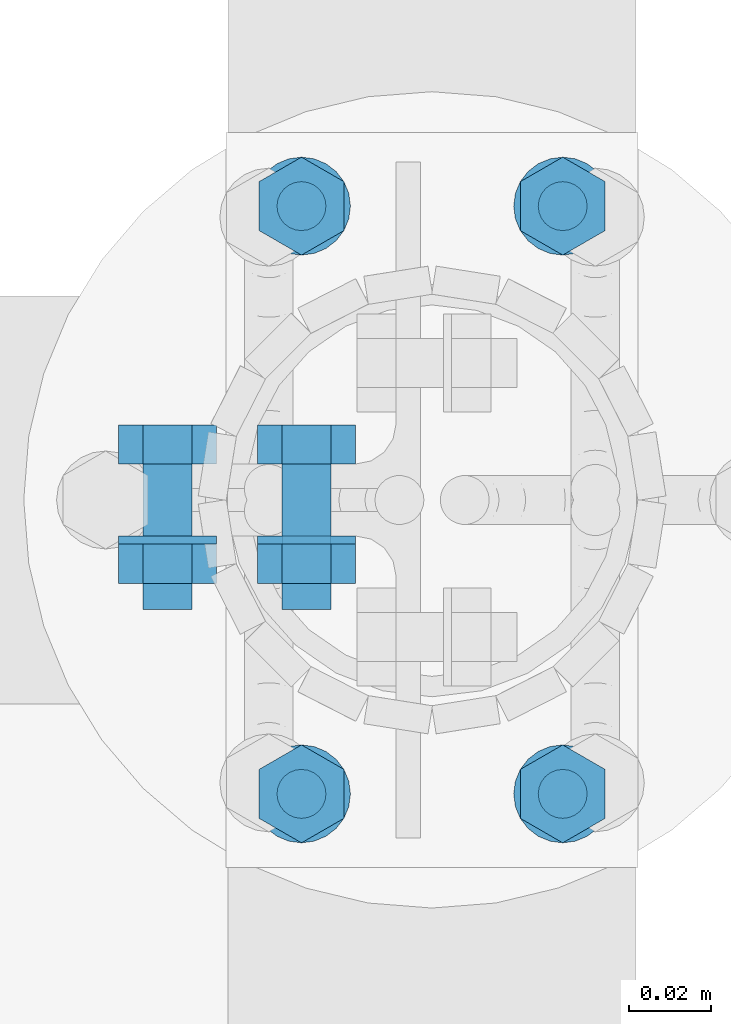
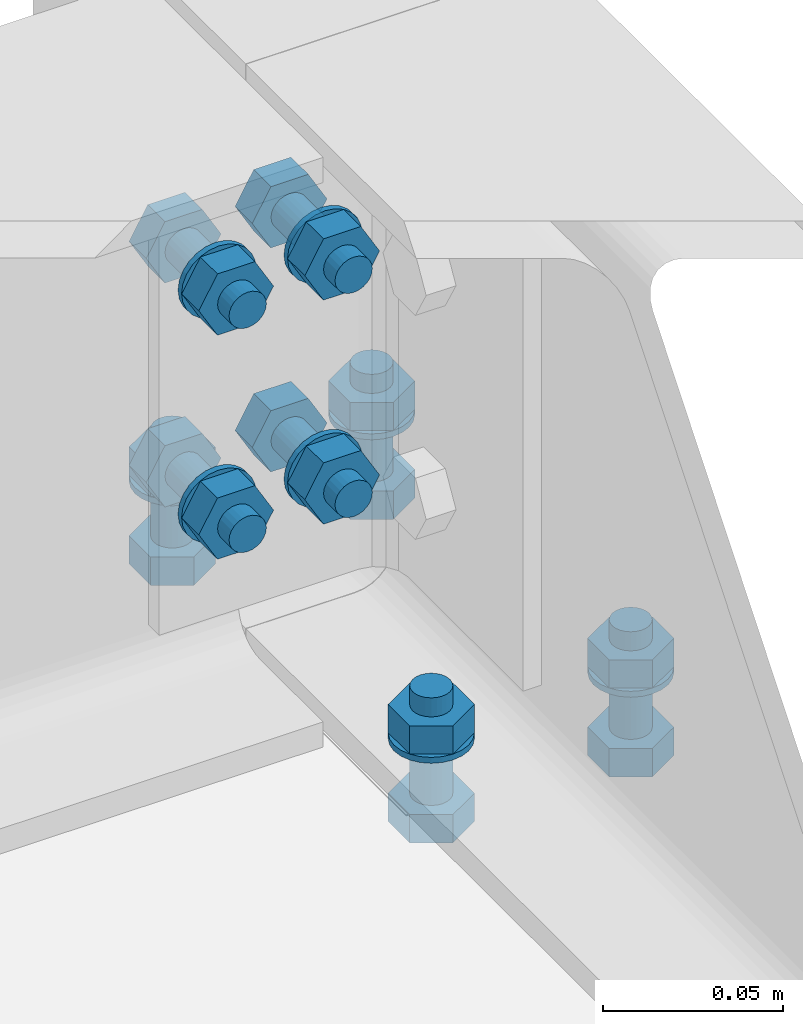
# One storey, part 70 of 84: 39 mechanical fasteners.
"""IFC4 building model written with IfcOpenShell, lengths in metres."""

import ifcopenshell
import ifcopenshell.guid

model = None  # the IFC model being written
_history = None  # IfcOwnerHistory: only IFC2X3 demands one
_inside = {}  # id of a spatial element -> (the spatial element, [elements in it])
_under = {}  # id of a project, library or spatial element -> (it, [spatial elements below it])
_declared = {}  # id of a project -> (the project, [libraries it declares])
_typed = {}  # id of a type object -> (the type object, [elements of that type])
_made_of = {}  # id of a material, layer set ... -> (it, [elements and type objects made of it])


def new_model(schema):
    """Start an empty IFC model of exactly this schema.

    Asked for "IFC4X3", IfcOpenShell would pick the latest addendum, in which some entities
    have other attributes; the version numbers below select the first issue.
    IFC2X3 requires an IfcOwnerHistory on every rooted entity: one is made here for all.
    """
    global model, _history
    if schema == "IFC4X3":
        model = ifcopenshell.file(schema_version=(4, 3, 0, 0))
    else:
        model = ifcopenshell.file(schema=schema)
    _inside.clear()
    _under.clear()
    _declared.clear()
    _typed.clear()
    _made_of.clear()
    _history = None
    if model.schema == "IFC2X3":
        org = make("IfcOrganization", Name="unknown")
        user = make(
            "IfcPersonAndOrganization",
            ThePerson=make("IfcPerson", FamilyName="unknown"),
            TheOrganization=org,
        )
        app = make(
            "IfcApplication",
            ApplicationDeveloper=org,
            Version="unknown",
            ApplicationFullName="unknown",
            ApplicationIdentifier="unknown",
        )
        _history = make(
            "IfcOwnerHistory",
            OwningUser=user,
            OwningApplication=app,
            ChangeAction="ADDED",
            CreationDate=0,
        )
    return model


def make(cls, **values):
    """One entity of the class cls with the attributes given. An attribute that is None is left unset."""
    return model.create_entity(
        cls, **{name: value for name, value in values.items() if value is not None}
    )


def rooted(cls, **values):
    """An entity with a GlobalId (a new one), such as an element, a storey or a relation."""
    return make(cls, GlobalId=ifcopenshell.guid.new(), OwnerHistory=_history, **values)


def si_unit(unit_type, name, prefix=None):
    """IfcSIUnit, for example si_unit("LENGTHUNIT", "METRE", prefix="MILLI")."""
    return make("IfcSIUnit", UnitType=unit_type, Prefix=prefix, Name=name)


def assignment(units):
    """IfcUnitAssignment: the units of a project."""
    return None if units is None else make("IfcUnitAssignment", Units=units)


def point(xyz):
    """IfcCartesianPoint."""
    return None if xyz is None else make("IfcCartesianPoint", Coordinates=xyz)


def direction(xyz):
    """IfcDirection."""
    return None if xyz is None else make("IfcDirection", DirectionRatios=xyz)


def frame(location, z_axis=None, x_axis=None):
    """IfcAxis2Placement3D, a coordinate frame: its origin and axes. An axis left out is left unset."""
    return make(
        "IfcAxis2Placement3D",
        Location=point(location),
        Axis=direction(z_axis),
        RefDirection=direction(x_axis),
    )


def origin_with_axes():
    """The frame at (0, 0, 0) with the z axis (0, 0, 1) and the x axis (1, 0, 0) written out."""
    return frame((0.0, 0.0, 0.0), z_axis=(0.0, 0.0, 1.0), x_axis=(1.0, 0.0, 0.0))


def place(relative_to, where):
    """IfcLocalPlacement: puts the frame where relative to a parent placement (None: the world)."""
    return make(
        "IfcLocalPlacement", PlacementRelTo=relative_to, RelativePlacement=where
    )


def context(
    kind, dimensions, precision=None, world=None, true_north=None, identifier=None
):
    """IfcGeometricRepresentationContext, for example the 3D "Model" context."""
    return make(
        "IfcGeometricRepresentationContext",
        ContextIdentifier=identifier,
        ContextType=kind,
        CoordinateSpaceDimension=dimensions,
        Precision=precision,
        WorldCoordinateSystem=world,
        TrueNorth=true_north,
    )


def project(units=None, contexts=None):
    """IfcProject with its units and contexts."""
    return rooted(
        "IfcProject",
        Name="project",
        RepresentationContexts=contexts,
        UnitsInContext=assignment(units),
    )


def spatial(cls, under=None, at=None, **own):
    """A site, building, storey or space (cls), placed at a placement, below another one or the project."""
    s = rooted(cls, ObjectPlacement=at, **own)
    if under is not None:
        _under.setdefault(under.id(), (under, []))[1].append(s)
    return s


def polyline(points):
    """IfcPolyline through the points."""
    return make("IfcPolyline", Points=[point(p) for p in points])


def outline(outer, holes=None, kind="AREA"):
    """IfcArbitraryClosedProfileDef: a profile drawn as a closed curve; with holes, ...WithVoids."""
    if holes is None:
        return make("IfcArbitraryClosedProfileDef", ProfileType=kind, OuterCurve=outer)
    return make(
        "IfcArbitraryProfileDefWithVoids",
        ProfileType=kind,
        OuterCurve=outer,
        InnerCurves=holes,
    )


def extrude(swept, where, along, depth):
    """IfcExtrudedAreaSolid: the profile swept, set in the frame where, extruded along a direction by depth."""
    return make(
        "IfcExtrudedAreaSolid",
        SweptArea=swept,
        Position=where,
        ExtrudedDirection=direction(along),
        Depth=depth,
    )


def shape(context_of_items, identifier, shape_type, items):
    """IfcShapeRepresentation: the items that make up one representation, for example the "Body"."""
    return make(
        "IfcShapeRepresentation",
        ContextOfItems=context_of_items,
        RepresentationIdentifier=identifier,
        RepresentationType=shape_type,
        Items=items,
    )


def made_of(thing, what):
    """Note that an element or type object is made of a material, layer set ...; save() writes the relation."""
    if what is not None:
        _made_of.setdefault(what.id(), (what, []))[1].append(thing)
    return thing


def type_object(cls, material=None, **own):
    """A type object (cls), such as IfcWallType, which elements share."""
    return made_of(rooted(cls, **own), material)


def element(
    cls,
    number,
    at=None,
    inside=None,
    cuts=None,
    type_object=None,
    material=None,
    context=None,
    identifier="Body",
    shape_type=None,
    held_by="IfcProductDefinitionShape",
    body=None,
    shapes=None,
    **own,
):
    """One element of the class cls, such as IfcWall. Its Tag is "e" and its number.

    at: its placement. inside: the storey or other place that contains it. cuts: it is an
    opening in that element (IfcRelVoidsElement). A single representation is given by context,
    identifier, shape_type and body (its items); several are given by shapes. held_by: the class
    of the entity that holds the representations. save() writes the other relations.
    """
    e = rooted(cls, Tag="e%d" % number, ObjectPlacement=at, **own)
    if body is not None:
        shapes = [shape(context, identifier, shape_type, body)]
    if shapes is not None:
        e.Representation = make(held_by, Representations=shapes)
    if inside is not None:
        _inside.setdefault(inside.id(), (inside, []))[1].append(e)
    if cuts is not None:
        rooted(
            "IfcRelVoidsElement", RelatingBuildingElement=cuts, RelatedOpeningElement=e
        )
    if type_object is not None:
        _typed.setdefault(type_object.id(), (type_object, []))[1].append(e)
    return made_of(e, material)


def aggregate(whole, parts):
    """IfcRelAggregates: a whole, such as a stair, and the parts it consists of."""
    return rooted("IfcRelAggregates", RelatingObject=whole, RelatedObjects=parts)


def save(model, path):
    """Write the relations noted so far, then the file.

    IfcRelAggregates (storeys below a building ...), IfcRelContainedInSpatialStructure (elements
    in a storey), IfcRelDefinesByType, IfcRelAssociatesMaterial and IfcRelDeclares: one each for
    every whole, place, type object, material and project.
    """
    for whole, parts in _under.values():
        aggregate(whole, parts)
    for where, things in _inside.values():
        rooted(
            "IfcRelContainedInSpatialStructure",
            RelatedElements=things,
            RelatingStructure=where,
        )
    for kind, things in _typed.values():
        rooted("IfcRelDefinesByType", RelatedObjects=things, RelatingType=kind)
    for what, things in _made_of.values():
        rooted("IfcRelAssociatesMaterial", RelatedObjects=things, RelatingMaterial=what)
    for by, libraries in _declared.values():
        rooted("IfcRelDeclares", RelatingContext=by, RelatedDefinitions=libraries)
    model.write(path)


model = new_model("IFC4")

# Units and contexts
model_context = context("Model", 3, precision=1e-05, world=origin_with_axes())
ifc_project = project(units=[si_unit("LENGTHUNIT", "METRE"), si_unit("AREAUNIT", "SQUARE_METRE"), si_unit("VOLUMEUNIT", "CUBIC_METRE"), si_unit("MASSUNIT", "GRAM", prefix="KILO"), si_unit("TIMEUNIT", "SECOND"), si_unit("PLANEANGLEUNIT", "RADIAN"), si_unit("SOLIDANGLEUNIT", "STERADIAN"), si_unit("THERMODYNAMICTEMPERATUREUNIT", "DEGREE_CELSIUS")], contexts=[model_context])

# Site, building, storey
placement_1 = place(None, origin_with_axes())
site = spatial("IfcSite", under=ifc_project, at=placement_1, Name="Italia", CompositionType="ELEMENT")
building = spatial("IfcBuilding", under=site, at=placement_1, Name="Tettoia", CompositionType="ELEMENT")
storey_placement = place(None, frame((0.0, 0.0, 4.199999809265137), z_axis=(0.0, 0.0, 1.0), x_axis=(1.0, 0.0, 0.0)))
storey = spatial("IfcBuildingStorey", under=building, at=storey_placement, Name="Storey 1", CompositionType="ELEMENT", Elevation=4.199999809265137)

# Mechanical fasteners
mechanical_fastener_type_1 = type_object("IfcMechanicalFastenerType", Name="Collegamento 0113_-013", PredefinedType="BOLT")
placement_2 = place(placement_1, origin_with_axes())
mechanical_fastener_1_placement = place(placement_2, origin_with_axes())
element("IfcMechanicalFastener", 1, at=mechanical_fastener_1_placement, inside=storey, type_object=mechanical_fastener_type_1, Name="Collegamento 0113_-013", NominalDiameter=0.0119997, context=model_context, shape_type="SweptSolid", body=[
    extrude(outline(polyline([(0.0, 0.0), (0.0120001, 0.0), (0.0179996, -0.0103931), (0.0120001, -0.0207853), (0.0, -0.0207853), (-0.00599957, -0.0103931), (0.0, 0.0)])), frame((11.3324, 14.016, 4.19), z_axis=(0.0, 0.0, -1.0), x_axis=(0.0, 1.0, 0.0)), (0.0, 0.0, 1.0), 0.00959969),
])
mechanical_fastener_type_2 = type_object("IfcMechanicalFastenerType", Name="Collegamento 0113_-013", PredefinedType="BOLT")
mechanical_fastener_2_placement = place(placement_2, origin_with_axes())
element("IfcMechanicalFastener", 2, at=mechanical_fastener_2_placement, inside=storey, type_object=mechanical_fastener_type_2, Name="Collegamento 0113_-013", NominalDiameter=0.012, context=model_context, shape_type="SweptSolid", body=[
    extrude(outline(polyline([(0.0, 0.0), (-0.000204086, -0.00155258), (-0.000802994, -0.00300026), (-0.00175667, -0.0042429), (-0.00299931, -0.00519657), (-0.00444698, -0.00579548), (-0.00599957, -0.00599957), (-0.00755215, -0.00579548), (-0.00899982, -0.00519657), (-0.0102425, -0.0042429), (-0.0111961, -0.00300026), (-0.011795, -0.00155258), (-0.0119991, 0.0), (-0.011795, 0.00155258), (-0.0111961, 0.00300026), (-0.0102425, 0.0042429), (-0.00899982, 0.00519657), (-0.00755215, 0.00579548), (-0.00599957, 0.00599957), (-0.00444698, 0.00579548), (-0.00299931, 0.00519657), (-0.00175667, 0.0042429), (-0.000802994, 0.00300026), (-0.000204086, 0.00155258), (0.0, 0.0)])), frame((11.322, 14.028, 4.2265), z_axis=(0.0, 0.0, -1.0), x_axis=(0.0, 1.0, 0.0)), (0.0, 0.0, 1.0), 0.0365005),
])
mechanical_fastener_type_3 = type_object("IfcMechanicalFastenerType", Name="Collegamento 0113_-013", PredefinedType="BOLT")
mechanical_fastener_3_placement = place(placement_2, origin_with_axes())
element("IfcMechanicalFastener", 3, at=mechanical_fastener_3_placement, inside=storey, type_object=mechanical_fastener_type_3, Name="Collegamento 0113_-013", NominalDiameter=0.0119997, context=model_context, shape_type="SweptSolid", body=[
    extrude(outline(polyline([(0.0, 0.0), (0.0120001, 0.0), (0.0179996, -0.0103931), (0.0120001, -0.0207853), (0.0, -0.0207853), (-0.00599957, -0.0103931), (0.0, 0.0)])), frame((11.3324, 14.016, 4.2201), z_axis=(0.0, 0.0, -1.0), x_axis=(0.0, 1.0, 0.0)), (0.0, 0.0, 1.0), 0.00960016),
])
mechanical_fastener_type_4 = type_object("IfcMechanicalFastenerType", Name="Collegamento 0113_-013", PredefinedType="BOLT")
mechanical_fastener_4_placement = place(placement_2, origin_with_axes())
element("IfcMechanicalFastener", 4, at=mechanical_fastener_4_placement, inside=storey, type_object=mechanical_fastener_type_4, Name="Collegamento 0113_-013", NominalDiameter=0.024, context=model_context, shape_type="SweptSolid", body=[
    extrude(outline(polyline([(0.0, 0.0), (-0.000409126, -0.00310612), (-0.00160789, -0.00599957), (-0.00351524, -0.00848484), (-0.00600052, -0.0103922), (-0.00889397, -0.011591), (-0.0120001, -0.0120001), (-0.0151062, -0.011591), (-0.0179996, -0.0103922), (-0.0204849, -0.00848484), (-0.0223923, -0.00599957), (-0.023591, -0.00310612), (-0.0240002, 0.0), (-0.023591, 0.00310612), (-0.0223923, 0.00599957), (-0.0204849, 0.00848484), (-0.0179996, 0.0103922), (-0.0151062, 0.011591), (-0.0120001, 0.0120001), (-0.00889397, 0.011591), (-0.00600052, 0.0103922), (-0.00351524, 0.00848484), (-0.00160789, 0.00599957), (-0.000409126, 0.00310612), (0.0, 0.0)])), frame((11.322, 14.034, 4.2105), z_axis=(0.0, 0.0, -1.0), x_axis=(0.0, 1.0, 0.0)), (0.0, 0.0, 1.0), 0.00199986),
])
mechanical_fastener_type_5 = type_object("IfcMechanicalFastenerType", Name="Collegamento 0113_-013", PredefinedType="BOLT")
mechanical_fastener_5_placement = place(placement_2, origin_with_axes())
element("IfcMechanicalFastener", 5, at=mechanical_fastener_5_placement, inside=storey, type_object=mechanical_fastener_type_5, Name="Collegamento 0113_-013", NominalDiameter=0.0119997, context=model_context, shape_type="SweptSolid", body=[
    extrude(outline(polyline([(0.0, 0.0), (0.0120001, 0.0), (0.0179996, -0.0103931), (0.0120001, -0.0207853), (0.0, -0.0207853), (-0.00599957, -0.0103931), (0.0, 0.0)])), frame((11.3324, 13.872, 4.19), z_axis=(0.0, 0.0, -1.0), x_axis=(0.0, 1.0, 0.0)), (0.0, 0.0, 1.0), 0.00959969),
])
mechanical_fastener_type_6 = type_object("IfcMechanicalFastenerType", Name="Collegamento 0113_-013", PredefinedType="BOLT")
mechanical_fastener_6_placement = place(placement_2, origin_with_axes())
element("IfcMechanicalFastener", 6, at=mechanical_fastener_6_placement, inside=storey, type_object=mechanical_fastener_type_6, Name="Collegamento 0113_-013", NominalDiameter=0.012, context=model_context, shape_type="SweptSolid", body=[
    extrude(outline(polyline([(0.0, 0.0), (-0.000204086, -0.00155258), (-0.000802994, -0.00300026), (-0.00175667, -0.0042429), (-0.00299931, -0.00519657), (-0.00444698, -0.00579548), (-0.00599957, -0.00599957), (-0.00755215, -0.00579548), (-0.00899982, -0.00519657), (-0.0102425, -0.0042429), (-0.0111961, -0.00300026), (-0.011795, -0.00155258), (-0.0119991, 0.0), (-0.011795, 0.00155258), (-0.0111961, 0.00300026), (-0.0102425, 0.0042429), (-0.00899982, 0.00519657), (-0.00755215, 0.00579548), (-0.00599957, 0.00599957), (-0.00444698, 0.00579548), (-0.00299931, 0.00519657), (-0.00175667, 0.0042429), (-0.000802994, 0.00300026), (-0.000204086, 0.00155258), (0.0, 0.0)])), frame((11.322, 13.884, 4.2265), z_axis=(0.0, 0.0, -1.0), x_axis=(0.0, 1.0, 0.0)), (0.0, 0.0, 1.0), 0.0365005),
])
mechanical_fastener_type_7 = type_object("IfcMechanicalFastenerType", Name="Collegamento 0113_-013", PredefinedType="BOLT")
mechanical_fastener_7_placement = place(placement_2, origin_with_axes())
element("IfcMechanicalFastener", 7, at=mechanical_fastener_7_placement, inside=storey, type_object=mechanical_fastener_type_7, Name="Collegamento 0113_-013", NominalDiameter=0.0119997, context=model_context, shape_type="SweptSolid", body=[
    extrude(outline(polyline([(0.0, 0.0), (0.0120001, 0.0), (0.0179996, -0.0103931), (0.0120001, -0.0207853), (0.0, -0.0207853), (-0.00599957, -0.0103931), (0.0, 0.0)])), frame((11.3324, 13.872, 4.2201), z_axis=(0.0, 0.0, -1.0), x_axis=(0.0, 1.0, 0.0)), (0.0, 0.0, 1.0), 0.00960016),
])
mechanical_fastener_type_8 = type_object("IfcMechanicalFastenerType", Name="Collegamento 0113_-013", PredefinedType="BOLT")
mechanical_fastener_8_placement = place(placement_2, origin_with_axes())
element("IfcMechanicalFastener", 8, at=mechanical_fastener_8_placement, inside=storey, type_object=mechanical_fastener_type_8, Name="Collegamento 0113_-013", NominalDiameter=0.024, context=model_context, shape_type="SweptSolid", body=[
    extrude(outline(polyline([(0.0, 0.0), (-0.000409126, -0.00310612), (-0.00160789, -0.00599957), (-0.00351524, -0.00848484), (-0.00600052, -0.0103922), (-0.00889397, -0.011591), (-0.0120001, -0.0120001), (-0.0151062, -0.011591), (-0.0179996, -0.0103922), (-0.0204849, -0.00848484), (-0.0223923, -0.00599957), (-0.023591, -0.00310612), (-0.0240002, 0.0), (-0.023591, 0.00310612), (-0.0223923, 0.00599957), (-0.0204849, 0.00848484), (-0.0179996, 0.0103922), (-0.0151062, 0.011591), (-0.0120001, 0.0120001), (-0.00889397, 0.011591), (-0.00600052, 0.0103922), (-0.00351524, 0.00848484), (-0.00160789, 0.00599957), (-0.000409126, 0.00310612), (0.0, 0.0)])), frame((11.322, 13.89, 4.2105), z_axis=(0.0, 0.0, -1.0), x_axis=(0.0, 1.0, 0.0)), (0.0, 0.0, 1.0), 0.00199986),
])
mechanical_fastener_type_9 = type_object("IfcMechanicalFastenerType", Name="Collegamento 0113_-013", PredefinedType="BOLT")
mechanical_fastener_9_placement = place(placement_2, origin_with_axes())
element("IfcMechanicalFastener", 9, at=mechanical_fastener_9_placement, inside=storey, type_object=mechanical_fastener_type_9, Name="Collegamento 0113_-013", NominalDiameter=0.0119997, context=model_context, shape_type="SweptSolid", body=[
    extrude(outline(polyline([(0.0, 0.0), (0.0120001, 0.0), (0.0179996, -0.0103922), (0.0120001, -0.0207853), (0.0, -0.0207853), (-0.00599957, -0.0103922), (0.0, 0.0)])), frame((11.2684, 14.016, 4.19), z_axis=(0.0, 0.0, -1.0), x_axis=(0.0, 1.0, 0.0)), (0.0, 0.0, 1.0), 0.00959969),
])
mechanical_fastener_type_10 = type_object("IfcMechanicalFastenerType", Name="Collegamento 0113_-013", PredefinedType="BOLT")
mechanical_fastener_10_placement = place(placement_2, origin_with_axes())
element("IfcMechanicalFastener", 10, at=mechanical_fastener_10_placement, inside=storey, type_object=mechanical_fastener_type_10, Name="Collegamento 0113_-013", NominalDiameter=0.012, context=model_context, shape_type="SweptSolid", body=[
    extrude(outline(polyline([(0.0, 0.0), (-0.000204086, -0.00155258), (-0.000802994, -0.00300026), (-0.00175667, -0.0042429), (-0.00299931, -0.00519657), (-0.00444698, -0.00579548), (-0.00599957, -0.00599957), (-0.00755215, -0.00579548), (-0.00899982, -0.00519657), (-0.0102425, -0.0042429), (-0.0111961, -0.00300026), (-0.011795, -0.00155258), (-0.0119991, 0.0), (-0.011795, 0.00155258), (-0.0111961, 0.00300026), (-0.0102425, 0.0042429), (-0.00899982, 0.00519657), (-0.00755215, 0.00579548), (-0.00599957, 0.00599957), (-0.00444698, 0.00579548), (-0.00299931, 0.00519657), (-0.00175667, 0.0042429), (-0.000802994, 0.00300026), (-0.000204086, 0.00155258), (0.0, 0.0)])), frame((11.258, 14.028, 4.2265), z_axis=(0.0, 0.0, -1.0), x_axis=(0.0, 1.0, 0.0)), (0.0, 0.0, 1.0), 0.0365005),
])
mechanical_fastener_type_11 = type_object("IfcMechanicalFastenerType", Name="Collegamento 0113_-013", PredefinedType="BOLT")
mechanical_fastener_11_placement = place(placement_2, origin_with_axes())
element("IfcMechanicalFastener", 11, at=mechanical_fastener_11_placement, inside=storey, type_object=mechanical_fastener_type_11, Name="Collegamento 0113_-013", NominalDiameter=0.0119997, context=model_context, shape_type="SweptSolid", body=[
    extrude(outline(polyline([(0.0, 0.0), (0.0120001, 0.0), (0.0179996, -0.0103922), (0.0120001, -0.0207853), (0.0, -0.0207853), (-0.00599957, -0.0103922), (0.0, 0.0)])), frame((11.2684, 14.016, 4.2201), z_axis=(0.0, 0.0, -1.0), x_axis=(0.0, 1.0, 0.0)), (0.0, 0.0, 1.0), 0.00960016),
])
mechanical_fastener_type_12 = type_object("IfcMechanicalFastenerType", Name="Collegamento 0113_-013", PredefinedType="BOLT")
mechanical_fastener_12_placement = place(placement_2, origin_with_axes())
element("IfcMechanicalFastener", 12, at=mechanical_fastener_12_placement, inside=storey, type_object=mechanical_fastener_type_12, Name="Collegamento 0113_-013", NominalDiameter=0.024, context=model_context, shape_type="SweptSolid", body=[
    extrude(outline(polyline([(0.0, 0.0), (-0.000409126, -0.00310612), (-0.00160789, -0.00599957), (-0.00351524, -0.00848484), (-0.00600052, -0.0103922), (-0.00889397, -0.011591), (-0.0120001, -0.0120001), (-0.0151062, -0.011591), (-0.0179996, -0.0103922), (-0.0204849, -0.00848484), (-0.0223923, -0.00599957), (-0.023591, -0.00310612), (-0.0240002, 0.0), (-0.023591, 0.00310612), (-0.0223923, 0.00599957), (-0.0204849, 0.00848484), (-0.0179996, 0.0103922), (-0.0151062, 0.011591), (-0.0120001, 0.0120001), (-0.00889397, 0.011591), (-0.00600052, 0.0103922), (-0.00351524, 0.00848484), (-0.00160789, 0.00599957), (-0.000409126, 0.00310612), (0.0, 0.0)])), frame((11.258, 14.034, 4.2105), z_axis=(0.0, 0.0, -1.0), x_axis=(0.0, 1.0, 0.0)), (0.0, 0.0, 1.0), 0.00199986),
])
mechanical_fastener_type_13 = type_object("IfcMechanicalFastenerType", Name="Collegamento 0113_-013", PredefinedType="BOLT")
mechanical_fastener_13_placement = place(placement_2, origin_with_axes())
element("IfcMechanicalFastener", 13, at=mechanical_fastener_13_placement, inside=storey, type_object=mechanical_fastener_type_13, Name="Collegamento 0113_-013", NominalDiameter=0.0119997, context=model_context, shape_type="SweptSolid", body=[
    extrude(outline(polyline([(0.0, 0.0), (0.0120001, 0.0), (0.0179996, -0.0103922), (0.0120001, -0.0207853), (0.0, -0.0207853), (-0.00599957, -0.0103922), (0.0, 0.0)])), frame((11.2684, 13.872, 4.19), z_axis=(0.0, 0.0, -1.0), x_axis=(0.0, 1.0, 0.0)), (0.0, 0.0, 1.0), 0.00959969),
])
mechanical_fastener_type_14 = type_object("IfcMechanicalFastenerType", Name="Collegamento 0113_-013", PredefinedType="BOLT")
mechanical_fastener_14_placement = place(placement_2, origin_with_axes())
element("IfcMechanicalFastener", 14, at=mechanical_fastener_14_placement, inside=storey, type_object=mechanical_fastener_type_14, Name="Collegamento 0113_-013", NominalDiameter=0.012, context=model_context, shape_type="SweptSolid", body=[
    extrude(outline(polyline([(0.0, 0.0), (-0.000204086, -0.00155258), (-0.000802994, -0.00300026), (-0.00175667, -0.0042429), (-0.00299931, -0.00519657), (-0.00444698, -0.00579548), (-0.00599957, -0.00599957), (-0.00755215, -0.00579548), (-0.00899982, -0.00519657), (-0.0102425, -0.0042429), (-0.0111961, -0.00300026), (-0.011795, -0.00155258), (-0.0119991, 0.0), (-0.011795, 0.00155258), (-0.0111961, 0.00300026), (-0.0102425, 0.0042429), (-0.00899982, 0.00519657), (-0.00755215, 0.00579548), (-0.00599957, 0.00599957), (-0.00444698, 0.00579548), (-0.00299931, 0.00519657), (-0.00175667, 0.0042429), (-0.000802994, 0.00300026), (-0.000204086, 0.00155258), (0.0, 0.0)])), frame((11.258, 13.884, 4.2265), z_axis=(0.0, 0.0, -1.0), x_axis=(0.0, 1.0, 0.0)), (0.0, 0.0, 1.0), 0.0365005),
])
mechanical_fastener_type_15 = type_object("IfcMechanicalFastenerType", Name="Collegamento 0113_-013", PredefinedType="BOLT")
mechanical_fastener_15_placement = place(placement_2, origin_with_axes())
element("IfcMechanicalFastener", 15, at=mechanical_fastener_15_placement, inside=storey, type_object=mechanical_fastener_type_15, Name="Collegamento 0113_-013", NominalDiameter=0.0119997, context=model_context, shape_type="SweptSolid", body=[
    extrude(outline(polyline([(0.0, 0.0), (0.0120001, 0.0), (0.0179996, -0.0103922), (0.0120001, -0.0207853), (0.0, -0.0207853), (-0.00599957, -0.0103922), (0.0, 0.0)])), frame((11.2684, 13.872, 4.2201), z_axis=(0.0, 0.0, -1.0), x_axis=(0.0, 1.0, 0.0)), (0.0, 0.0, 1.0), 0.00960016),
])
mechanical_fastener_type_16 = type_object("IfcMechanicalFastenerType", Name="Collegamento 0113_-013", PredefinedType="BOLT")
mechanical_fastener_16_placement = place(placement_2, origin_with_axes())
element("IfcMechanicalFastener", 16, at=mechanical_fastener_16_placement, inside=storey, type_object=mechanical_fastener_type_16, Name="Collegamento 0113_-013", NominalDiameter=0.024, context=model_context, shape_type="SweptSolid", body=[
    extrude(outline(polyline([(0.0, 0.0), (-0.000409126, -0.00310612), (-0.00160789, -0.00599957), (-0.00351524, -0.00848484), (-0.00600052, -0.0103922), (-0.00889397, -0.011591), (-0.0120001, -0.0120001), (-0.0151062, -0.011591), (-0.0179996, -0.0103922), (-0.0204849, -0.00848484), (-0.0223923, -0.00599957), (-0.023591, -0.00310612), (-0.0240002, 0.0), (-0.023591, 0.00310612), (-0.0223923, 0.00599957), (-0.0204849, 0.00848484), (-0.0179996, 0.0103922), (-0.0151062, 0.011591), (-0.0120001, 0.0120001), (-0.00889397, 0.011591), (-0.00600052, 0.0103922), (-0.00351524, 0.00848484), (-0.00160789, 0.00599957), (-0.000409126, 0.00310612), (0.0, 0.0)])), frame((11.258, 13.89, 4.2105), z_axis=(0.0, 0.0, -1.0), x_axis=(0.0, 1.0, 0.0)), (0.0, 0.0, 1.0), 0.00199986),
])
mechanical_fastener_type_17 = type_object("IfcMechanicalFastenerType", Name="Collegamento 0113_-016", PredefinedType="BOLT")
mechanical_fastener_17_placement = place(placement_2, origin_with_axes())
element("IfcMechanicalFastener", 17, at=mechanical_fastener_17_placement, inside=storey, type_object=mechanical_fastener_type_17, Name="Collegamento 0113_-016", NominalDiameter=0.0119997, context=model_context, shape_type="SweptSolid", body=[
    extrude(outline(polyline([(0.0, 0.0), (-0.0120001, 0.0), (-0.0180006, 0.0103922), (-0.0120001, 0.0207844), (0.0, 0.0207844), (0.00599957, 0.0103922), (0.0, 0.0)])), frame((11.2532, 13.9588, 4.25161), z_axis=(0.0, 1.0, 0.0), x_axis=(-1.0, 0.0, 0.0)), (0.0, 0.0, 1.0), 0.00960064),
])
mechanical_fastener_type_18 = type_object("IfcMechanicalFastenerType", Name="Collegamento 0113_-016", PredefinedType="BOLT")
mechanical_fastener_18_placement = place(placement_2, origin_with_axes())
element("IfcMechanicalFastener", 18, at=mechanical_fastener_18_placement, inside=storey, type_object=mechanical_fastener_type_18, Name="Collegamento 0113_-016", NominalDiameter=0.012, context=model_context, shape_type="SweptSolid", body=[
    extrude(outline(polyline([(0.0, 0.0), (-0.000204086, -0.00155306), (-0.000802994, -0.00299978), (-0.00175667, -0.00424242), (-0.00299931, -0.00519609), (-0.00444698, -0.00579548), (-0.00599957, -0.00600004), (-0.00755215, -0.00579548), (-0.00899982, -0.00519609), (-0.0102425, -0.00424242), (-0.0111961, -0.00299978), (-0.011795, -0.00155306), (-0.0119991, 0.0), (-0.011795, 0.00155306), (-0.0111961, 0.00299978), (-0.0102425, 0.00424242), (-0.00899982, 0.00519609), (-0.00755215, 0.00579548), (-0.00599957, 0.00600004), (-0.00444698, 0.00579548), (-0.00299931, 0.00519609), (-0.00175667, 0.00424242), (-0.000802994, 0.00299978), (-0.000204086, 0.00155306), (0.0, 0.0)])), frame((11.2532, 13.9232, 4.262), z_axis=(0.0, 1.0, 0.0), x_axis=(-1.0, 0.0, 0.0)), (0.0, 0.0, 1.0), 0.0355997),
])
mechanical_fastener_type_19 = type_object("IfcMechanicalFastenerType", Name="Collegamento 0113_-016", PredefinedType="BOLT")
mechanical_fastener_19_placement = place(placement_2, origin_with_axes())
element("IfcMechanicalFastener", 19, at=mechanical_fastener_19_placement, inside=storey, type_object=mechanical_fastener_type_19, Name="Collegamento 0113_-016", NominalDiameter=0.0119997, context=model_context, shape_type="SweptSolid", body=[
    extrude(outline(polyline([(0.0, 0.0), (-0.0120001, 0.0), (-0.0180006, 0.0103922), (-0.0120001, 0.0207844), (0.0, 0.0207844), (0.00599957, 0.0103922), (0.0, 0.0)])), frame((11.2532, 13.9296, 4.25161), z_axis=(0.0, 1.0, 0.0), x_axis=(-1.0, 0.0, 0.0)), (0.0, 0.0, 1.0), 0.00959969),
])
mechanical_fastener_type_20 = type_object("IfcMechanicalFastenerType", Name="Collegamento 0113_-016", PredefinedType="BOLT")
mechanical_fastener_20_placement = place(placement_2, origin_with_axes())
element("IfcMechanicalFastener", 20, at=mechanical_fastener_20_placement, inside=storey, type_object=mechanical_fastener_type_20, Name="Collegamento 0113_-016", NominalDiameter=0.024, context=model_context, shape_type="SweptSolid", body=[
    extrude(outline(polyline([(0.0, 0.0), (-0.000409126, -0.00310564), (-0.00160789, -0.00600004), (-0.00351524, -0.00848532), (-0.00600052, -0.0103922), (-0.00889397, -0.011591), (-0.0120001, -0.0120001), (-0.0151062, -0.011591), (-0.0179996, -0.0103922), (-0.0204849, -0.00848532), (-0.0223923, -0.00600004), (-0.023591, -0.00310564), (-0.0240002, 0.0), (-0.023591, 0.00310564), (-0.0223923, 0.00600004), (-0.0204849, 0.00848532), (-0.0179996, 0.0103922), (-0.0151062, 0.011591), (-0.0120001, 0.0120001), (-0.00889397, 0.011591), (-0.00600052, 0.0103922), (-0.00351524, 0.00848532), (-0.00160789, 0.00600004), (-0.000409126, 0.00310564), (0.0, 0.0)])), frame((11.2472, 13.9392, 4.262), z_axis=(0.0, 1.0, 0.0), x_axis=(-1.0, 0.0, 0.0)), (0.0, 0.0, 1.0), 0.00200081),
])
mechanical_fastener_type_21 = type_object("IfcMechanicalFastenerType", Name="Collegamento 0113_-016", PredefinedType="BOLT")
mechanical_fastener_21_placement = place(placement_2, origin_with_axes())
element("IfcMechanicalFastener", 21, at=mechanical_fastener_21_placement, inside=storey, type_object=mechanical_fastener_type_21, Name="Collegamento 0113_-016", NominalDiameter=0.0119997, context=model_context, shape_type="SweptSolid", body=[
    extrude(outline(polyline([(0.0, 0.0), (-0.0120001, 0.0), (-0.0180006, 0.0103922), (-0.0120001, 0.0207844), (0.0, 0.0207844), (0.00599957, 0.0103922), (0.0, 0.0)])), frame((11.2532, 13.9588, 4.32761), z_axis=(0.0, 1.0, 0.0), x_axis=(-1.0, 0.0, 0.0)), (0.0, 0.0, 1.0), 0.00960064),
])
mechanical_fastener_type_22 = type_object("IfcMechanicalFastenerType", Name="Collegamento 0113_-016", PredefinedType="BOLT")
mechanical_fastener_22_placement = place(placement_2, origin_with_axes())
element("IfcMechanicalFastener", 22, at=mechanical_fastener_22_placement, inside=storey, type_object=mechanical_fastener_type_22, Name="Collegamento 0113_-016", NominalDiameter=0.012, context=model_context, shape_type="SweptSolid", body=[
    extrude(outline(polyline([(0.0, 0.0), (-0.000204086, -0.00155306), (-0.000802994, -0.00299978), (-0.00175667, -0.00424242), (-0.00299931, -0.00519609), (-0.00444698, -0.00579548), (-0.00599957, -0.00600004), (-0.00755215, -0.00579548), (-0.00899982, -0.00519609), (-0.0102425, -0.00424242), (-0.0111961, -0.00299978), (-0.011795, -0.00155306), (-0.0119991, 0.0), (-0.011795, 0.00155306), (-0.0111961, 0.00299978), (-0.0102425, 0.00424242), (-0.00899982, 0.00519609), (-0.00755215, 0.00579548), (-0.00599957, 0.00600004), (-0.00444698, 0.00579548), (-0.00299931, 0.00519609), (-0.00175667, 0.00424242), (-0.000802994, 0.00299978), (-0.000204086, 0.00155306), (0.0, 0.0)])), frame((11.2532, 13.9232, 4.338), z_axis=(0.0, 1.0, 0.0), x_axis=(-1.0, 0.0, 0.0)), (0.0, 0.0, 1.0), 0.0355997),
])
mechanical_fastener_type_23 = type_object("IfcMechanicalFastenerType", Name="Collegamento 0113_-016", PredefinedType="BOLT")
mechanical_fastener_23_placement = place(placement_2, origin_with_axes())
element("IfcMechanicalFastener", 23, at=mechanical_fastener_23_placement, inside=storey, type_object=mechanical_fastener_type_23, Name="Collegamento 0113_-016", NominalDiameter=0.0119997, context=model_context, shape_type="SweptSolid", body=[
    extrude(outline(polyline([(0.0, 0.0), (-0.0120001, 0.0), (-0.0180006, 0.0103922), (-0.0120001, 0.0207844), (0.0, 0.0207844), (0.00599957, 0.0103922), (0.0, 0.0)])), frame((11.2532, 13.9296, 4.32761), z_axis=(0.0, 1.0, 0.0), x_axis=(-1.0, 0.0, 0.0)), (0.0, 0.0, 1.0), 0.00959969),
])
mechanical_fastener_type_24 = type_object("IfcMechanicalFastenerType", Name="Collegamento 0113_-016", PredefinedType="BOLT")
mechanical_fastener_24_placement = place(placement_2, origin_with_axes())
element("IfcMechanicalFastener", 24, at=mechanical_fastener_24_placement, inside=storey, type_object=mechanical_fastener_type_24, Name="Collegamento 0113_-016", NominalDiameter=0.024, context=model_context, shape_type="SweptSolid", body=[
    extrude(outline(polyline([(0.0, 0.0), (-0.000409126, -0.00310564), (-0.00160789, -0.00600004), (-0.00351524, -0.00848532), (-0.00600052, -0.0103922), (-0.00889397, -0.011591), (-0.0120001, -0.0120001), (-0.0151062, -0.011591), (-0.0179996, -0.0103922), (-0.0204849, -0.00848532), (-0.0223923, -0.00600004), (-0.023591, -0.00310564), (-0.0240002, 0.0), (-0.023591, 0.00310564), (-0.0223923, 0.00600004), (-0.0204849, 0.00848532), (-0.0179996, 0.0103922), (-0.0151062, 0.011591), (-0.0120001, 0.0120001), (-0.00889397, 0.011591), (-0.00600052, 0.0103922), (-0.00351524, 0.00848532), (-0.00160789, 0.00600004), (-0.000409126, 0.00310564), (0.0, 0.0)])), frame((11.2472, 13.9392, 4.338), z_axis=(0.0, 1.0, 0.0), x_axis=(-1.0, 0.0, 0.0)), (0.0, 0.0, 1.0), 0.00200081),
])
mechanical_fastener_type_25 = type_object("IfcMechanicalFastenerType", Name="Collegamento 0113_-016", PredefinedType="BOLT")
mechanical_fastener_25_placement = place(placement_2, origin_with_axes())
element("IfcMechanicalFastener", 25, at=mechanical_fastener_25_placement, inside=storey, type_object=mechanical_fastener_type_25, Name="Collegamento 0113_-016", NominalDiameter=0.0119997, context=model_context, shape_type="SweptSolid", body=[
    extrude(outline(polyline([(0.0, 0.0), (-0.0120001, 0.0), (-0.0179996, 0.0103922), (-0.0120001, 0.0207844), (0.0, 0.0207844), (0.00600052, 0.0103922), (0.0, 0.0)])), frame((11.2192, 13.9588, 4.25161), z_axis=(0.0, 1.0, 0.0), x_axis=(-1.0, 0.0, 0.0)), (0.0, 0.0, 1.0), 0.00960064),
])
mechanical_fastener_type_26 = type_object("IfcMechanicalFastenerType", Name="Collegamento 0113_-016", PredefinedType="BOLT")
mechanical_fastener_26_placement = place(placement_2, origin_with_axes())
element("IfcMechanicalFastener", 26, at=mechanical_fastener_26_placement, inside=storey, type_object=mechanical_fastener_type_26, Name="Collegamento 0113_-016", NominalDiameter=0.012, context=model_context, shape_type="SweptSolid", body=[
    extrude(outline(polyline([(0.0, 0.0), (-0.000204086, -0.00155306), (-0.000802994, -0.00299978), (-0.00175667, -0.00424242), (-0.00299931, -0.00519609), (-0.00444698, -0.00579548), (-0.00599957, -0.00600004), (-0.00755215, -0.00579548), (-0.00899982, -0.00519609), (-0.0102425, -0.00424242), (-0.0111961, -0.00299978), (-0.011795, -0.00155306), (-0.0119991, 0.0), (-0.011795, 0.00155306), (-0.0111961, 0.00299978), (-0.0102425, 0.00424242), (-0.00899982, 0.00519609), (-0.00755215, 0.00579548), (-0.00599957, 0.00600004), (-0.00444698, 0.00579548), (-0.00299931, 0.00519609), (-0.00175667, 0.00424242), (-0.000802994, 0.00299978), (-0.000204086, 0.00155306), (0.0, 0.0)])), frame((11.2192, 13.9232, 4.262), z_axis=(0.0, 1.0, 0.0), x_axis=(-1.0, 0.0, 0.0)), (0.0, 0.0, 1.0), 0.0355997),
])
mechanical_fastener_type_27 = type_object("IfcMechanicalFastenerType", Name="Collegamento 0113_-016", PredefinedType="BOLT")
mechanical_fastener_27_placement = place(placement_2, origin_with_axes())
element("IfcMechanicalFastener", 27, at=mechanical_fastener_27_placement, inside=storey, type_object=mechanical_fastener_type_27, Name="Collegamento 0113_-016", NominalDiameter=0.0119997, context=model_context, shape_type="SweptSolid", body=[
    extrude(outline(polyline([(0.0, 0.0), (-0.0120001, 0.0), (-0.0179996, 0.0103922), (-0.0120001, 0.0207844), (0.0, 0.0207844), (0.00600052, 0.0103922), (0.0, 0.0)])), frame((11.2192, 13.9296, 4.25161), z_axis=(0.0, 1.0, 0.0), x_axis=(-1.0, 0.0, 0.0)), (0.0, 0.0, 1.0), 0.00959969),
])
mechanical_fastener_type_28 = type_object("IfcMechanicalFastenerType", Name="Collegamento 0113_-016", PredefinedType="BOLT")
mechanical_fastener_28_placement = place(placement_2, origin_with_axes())
element("IfcMechanicalFastener", 28, at=mechanical_fastener_28_placement, inside=storey, type_object=mechanical_fastener_type_28, Name="Collegamento 0113_-016", NominalDiameter=0.024, context=model_context, shape_type="SweptSolid", body=[
    extrude(outline(polyline([(0.0, 0.0), (-0.000409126, -0.00310564), (-0.00160789, -0.00600004), (-0.00351524, -0.00848532), (-0.00600052, -0.0103922), (-0.00889397, -0.011591), (-0.0120001, -0.0120001), (-0.0151062, -0.011591), (-0.0179996, -0.0103922), (-0.0204849, -0.00848532), (-0.0223923, -0.00600004), (-0.023591, -0.00310564), (-0.0240002, 0.0), (-0.023591, 0.00310564), (-0.0223923, 0.00600004), (-0.0204849, 0.00848532), (-0.0179996, 0.0103922), (-0.0151062, 0.011591), (-0.0120001, 0.0120001), (-0.00889397, 0.011591), (-0.00600052, 0.0103922), (-0.00351524, 0.00848532), (-0.00160789, 0.00600004), (-0.000409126, 0.00310564), (0.0, 0.0)])), frame((11.2132, 13.9392, 4.262), z_axis=(0.0, 1.0, 0.0), x_axis=(-1.0, 0.0, 0.0)), (0.0, 0.0, 1.0), 0.00200081),
])
mechanical_fastener_type_29 = type_object("IfcMechanicalFastenerType", Name="Collegamento 0113_-016", PredefinedType="BOLT")
mechanical_fastener_29_placement = place(placement_2, origin_with_axes())
element("IfcMechanicalFastener", 29, at=mechanical_fastener_29_placement, inside=storey, type_object=mechanical_fastener_type_29, Name="Collegamento 0113_-016", NominalDiameter=0.0119997, context=model_context, shape_type="SweptSolid", body=[
    extrude(outline(polyline([(0.0, 0.0), (-0.0120001, 0.0), (-0.0179996, 0.0103922), (-0.0120001, 0.0207844), (0.0, 0.0207844), (0.00600052, 0.0103922), (0.0, 0.0)])), frame((11.2192, 13.9588, 4.32761), z_axis=(0.0, 1.0, 0.0), x_axis=(-1.0, 0.0, 0.0)), (0.0, 0.0, 1.0), 0.00960064),
])
mechanical_fastener_type_30 = type_object("IfcMechanicalFastenerType", Name="Collegamento 0113_-016", PredefinedType="BOLT")
mechanical_fastener_30_placement = place(placement_2, origin_with_axes())
element("IfcMechanicalFastener", 30, at=mechanical_fastener_30_placement, inside=storey, type_object=mechanical_fastener_type_30, Name="Collegamento 0113_-016", NominalDiameter=0.012, context=model_context, shape_type="SweptSolid", body=[
    extrude(outline(polyline([(0.0, 0.0), (-0.000204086, -0.00155306), (-0.000802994, -0.00299978), (-0.00175667, -0.00424242), (-0.00299931, -0.00519609), (-0.00444698, -0.00579548), (-0.00599957, -0.00600004), (-0.00755215, -0.00579548), (-0.00899982, -0.00519609), (-0.0102425, -0.00424242), (-0.0111961, -0.00299978), (-0.011795, -0.00155306), (-0.0119991, 0.0), (-0.011795, 0.00155306), (-0.0111961, 0.00299978), (-0.0102425, 0.00424242), (-0.00899982, 0.00519609), (-0.00755215, 0.00579548), (-0.00599957, 0.00600004), (-0.00444698, 0.00579548), (-0.00299931, 0.00519609), (-0.00175667, 0.00424242), (-0.000802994, 0.00299978), (-0.000204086, 0.00155306), (0.0, 0.0)])), frame((11.2192, 13.9232, 4.338), z_axis=(0.0, 1.0, 0.0), x_axis=(-1.0, 0.0, 0.0)), (0.0, 0.0, 1.0), 0.0355997),
])
mechanical_fastener_type_31 = type_object("IfcMechanicalFastenerType", Name="Collegamento 0113_-016", PredefinedType="BOLT")
mechanical_fastener_31_placement = place(placement_2, origin_with_axes())
element("IfcMechanicalFastener", 31, at=mechanical_fastener_31_placement, inside=storey, type_object=mechanical_fastener_type_31, Name="Collegamento 0113_-016", NominalDiameter=0.0119997, context=model_context, shape_type="SweptSolid", body=[
    extrude(outline(polyline([(0.0, 0.0), (-0.0120001, 0.0), (-0.0179996, 0.0103922), (-0.0120001, 0.0207844), (0.0, 0.0207844), (0.00600052, 0.0103922), (0.0, 0.0)])), frame((11.2192, 13.9296, 4.32761), z_axis=(0.0, 1.0, 0.0), x_axis=(-1.0, 0.0, 0.0)), (0.0, 0.0, 1.0), 0.00959969),
])
mechanical_fastener_type_32 = type_object("IfcMechanicalFastenerType", Name="Collegamento 0113_-016", PredefinedType="BOLT")
mechanical_fastener_32_placement = place(placement_2, origin_with_axes())
element("IfcMechanicalFastener", 32, at=mechanical_fastener_32_placement, inside=storey, type_object=mechanical_fastener_type_32, Name="Collegamento 0113_-016", NominalDiameter=0.024, context=model_context, shape_type="SweptSolid", body=[
    extrude(outline(polyline([(0.0, 0.0), (-0.000409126, -0.00310564), (-0.00160789, -0.00600004), (-0.00351524, -0.00848532), (-0.00600052, -0.0103922), (-0.00889397, -0.011591), (-0.0120001, -0.0120001), (-0.0151062, -0.011591), (-0.0179996, -0.0103922), (-0.0204849, -0.00848532), (-0.0223923, -0.00600004), (-0.023591, -0.00310564), (-0.0240002, 0.0), (-0.023591, 0.00310564), (-0.0223923, 0.00600004), (-0.0204849, 0.00848532), (-0.0179996, 0.0103922), (-0.0151062, 0.011591), (-0.0120001, 0.0120001), (-0.00889397, 0.011591), (-0.00600052, 0.0103922), (-0.00351524, 0.00848532), (-0.00160789, 0.00600004), (-0.000409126, 0.00310564), (0.0, 0.0)])), frame((11.2132, 13.9392, 4.338), z_axis=(0.0, 1.0, 0.0), x_axis=(-1.0, 0.0, 0.0)), (0.0, 0.0, 1.0), 0.00200081),
])
mechanical_fastener_type_33 = type_object("IfcMechanicalFastenerType", Name="Collegamento 0113_-016", PredefinedType="BOLT")
mechanical_fastener_33_placement = place(placement_2, origin_with_axes())
element("IfcMechanicalFastener", 33, at=mechanical_fastener_33_placement, inside=storey, type_object=mechanical_fastener_type_33, Name="Collegamento 0113_-016", NominalDiameter=0.0119997, context=model_context, shape_type="SweptSolid", body=[
    extrude(outline(polyline([(0.0, 0.0), (-0.0120001, 0.0), (-0.0180006, 0.0103922), (-0.0120001, 0.0207844), (0.0, 0.0207844), (0.00599957, 0.0103922), (0.0, 0.0)])), frame((11.2532, 13.9588, 4.25161), z_axis=(0.0, 1.0, 0.0), x_axis=(-1.0, 0.0, 0.0)), (0.0, 0.0, 1.0), 0.00960064),
])
mechanical_fastener_type_34 = type_object("IfcMechanicalFastenerType", Name="Collegamento 0113_-016", PredefinedType="BOLT")
mechanical_fastener_34_placement = place(placement_2, origin_with_axes())
element("IfcMechanicalFastener", 34, at=mechanical_fastener_34_placement, inside=storey, type_object=mechanical_fastener_type_34, Name="Collegamento 0113_-016", NominalDiameter=0.012, context=model_context, shape_type="SweptSolid", body=[
    extrude(outline(polyline([(0.0, 0.0), (-0.000204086, -0.00155306), (-0.000802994, -0.00299978), (-0.00175667, -0.00424242), (-0.00299931, -0.00519609), (-0.00444698, -0.00579548), (-0.00599957, -0.00600004), (-0.00755215, -0.00579548), (-0.00899982, -0.00519609), (-0.0102425, -0.00424242), (-0.0111961, -0.00299978), (-0.011795, -0.00155306), (-0.0119991, 0.0), (-0.011795, 0.00155306), (-0.0111961, 0.00299978), (-0.0102425, 0.00424242), (-0.00899982, 0.00519609), (-0.00755215, 0.00579548), (-0.00599957, 0.00600004), (-0.00444698, 0.00579548), (-0.00299931, 0.00519609), (-0.00175667, 0.00424242), (-0.000802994, 0.00299978), (-0.000204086, 0.00155306), (0.0, 0.0)])), frame((11.2532, 13.9232, 4.262), z_axis=(0.0, 1.0, 0.0), x_axis=(-1.0, 0.0, 0.0)), (0.0, 0.0, 1.0), 0.0355997),
])
mechanical_fastener_type_35 = type_object("IfcMechanicalFastenerType", Name="Collegamento 0113_-016", PredefinedType="BOLT")
mechanical_fastener_35_placement = place(placement_2, origin_with_axes())
element("IfcMechanicalFastener", 35, at=mechanical_fastener_35_placement, inside=storey, type_object=mechanical_fastener_type_35, Name="Collegamento 0113_-016", NominalDiameter=0.0119997, context=model_context, shape_type="SweptSolid", body=[
    extrude(outline(polyline([(0.0, 0.0), (-0.0120001, 0.0), (-0.0180006, 0.0103922), (-0.0120001, 0.0207844), (0.0, 0.0207844), (0.00599957, 0.0103922), (0.0, 0.0)])), frame((11.2532, 13.9296, 4.25161), z_axis=(0.0, 1.0, 0.0), x_axis=(-1.0, 0.0, 0.0)), (0.0, 0.0, 1.0), 0.00959969),
])
mechanical_fastener_type_36 = type_object("IfcMechanicalFastenerType", Name="Collegamento 0113_-016", PredefinedType="BOLT")
mechanical_fastener_36_placement = place(placement_2, origin_with_axes())
element("IfcMechanicalFastener", 36, at=mechanical_fastener_36_placement, inside=storey, type_object=mechanical_fastener_type_36, Name="Collegamento 0113_-016", NominalDiameter=0.024, context=model_context, shape_type="SweptSolid", body=[
    extrude(outline(polyline([(0.0, 0.0), (-0.000409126, -0.00310564), (-0.00160789, -0.00600004), (-0.00351524, -0.00848532), (-0.00600052, -0.0103922), (-0.00889397, -0.011591), (-0.0120001, -0.0120001), (-0.0151062, -0.011591), (-0.0179996, -0.0103922), (-0.0204849, -0.00848532), (-0.0223923, -0.00600004), (-0.023591, -0.00310564), (-0.0240002, 0.0), (-0.023591, 0.00310564), (-0.0223923, 0.00600004), (-0.0204849, 0.00848532), (-0.0179996, 0.0103922), (-0.0151062, 0.011591), (-0.0120001, 0.0120001), (-0.00889397, 0.011591), (-0.00600052, 0.0103922), (-0.00351524, 0.00848532), (-0.00160789, 0.00600004), (-0.000409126, 0.00310564), (0.0, 0.0)])), frame((11.2472, 13.9392, 4.262), z_axis=(0.0, 1.0, 0.0), x_axis=(-1.0, 0.0, 0.0)), (0.0, 0.0, 1.0), 0.00200081),
])
mechanical_fastener_type_37 = type_object("IfcMechanicalFastenerType", Name="Collegamento 0113_-016", PredefinedType="BOLT")
mechanical_fastener_37_placement = place(placement_2, origin_with_axes())
element("IfcMechanicalFastener", 37, at=mechanical_fastener_37_placement, inside=storey, type_object=mechanical_fastener_type_37, Name="Collegamento 0113_-016", NominalDiameter=0.0119997, context=model_context, shape_type="SweptSolid", body=[
    extrude(outline(polyline([(0.0, 0.0), (-0.0120001, 0.0), (-0.0180006, 0.0103922), (-0.0120001, 0.0207844), (0.0, 0.0207844), (0.00599957, 0.0103922), (0.0, 0.0)])), frame((11.2532, 13.9588, 4.32761), z_axis=(0.0, 1.0, 0.0), x_axis=(-1.0, 0.0, 0.0)), (0.0, 0.0, 1.0), 0.00960064),
])
mechanical_fastener_type_38 = type_object("IfcMechanicalFastenerType", Name="Collegamento 0113_-016", PredefinedType="BOLT")
mechanical_fastener_38_placement = place(placement_2, origin_with_axes())
element("IfcMechanicalFastener", 38, at=mechanical_fastener_38_placement, inside=storey, type_object=mechanical_fastener_type_38, Name="Collegamento 0113_-016", NominalDiameter=0.012, context=model_context, shape_type="SweptSolid", body=[
    extrude(outline(polyline([(0.0, 0.0), (-0.000204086, -0.00155306), (-0.000802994, -0.00299978), (-0.00175667, -0.00424242), (-0.00299931, -0.00519609), (-0.00444698, -0.00579548), (-0.00599957, -0.00600004), (-0.00755215, -0.00579548), (-0.00899982, -0.00519609), (-0.0102425, -0.00424242), (-0.0111961, -0.00299978), (-0.011795, -0.00155306), (-0.0119991, 0.0), (-0.011795, 0.00155306), (-0.0111961, 0.00299978), (-0.0102425, 0.00424242), (-0.00899982, 0.00519609), (-0.00755215, 0.00579548), (-0.00599957, 0.00600004), (-0.00444698, 0.00579548), (-0.00299931, 0.00519609), (-0.00175667, 0.00424242), (-0.000802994, 0.00299978), (-0.000204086, 0.00155306), (0.0, 0.0)])), frame((11.2532, 13.9232, 4.338), z_axis=(0.0, 1.0, 0.0), x_axis=(-1.0, 0.0, 0.0)), (0.0, 0.0, 1.0), 0.0355997),
])
mechanical_fastener_type_39 = type_object("IfcMechanicalFastenerType", Name="Collegamento 0113_-016", PredefinedType="BOLT")
mechanical_fastener_39_placement = place(placement_2, origin_with_axes())
element("IfcMechanicalFastener", 39, at=mechanical_fastener_39_placement, inside=storey, type_object=mechanical_fastener_type_39, Name="Collegamento 0113_-016", NominalDiameter=0.0119997, context=model_context, shape_type="SweptSolid", body=[
    extrude(outline(polyline([(0.0, 0.0), (-0.0120001, 0.0), (-0.0180006, 0.0103922), (-0.0120001, 0.0207844), (0.0, 0.0207844), (0.00599957, 0.0103922), (0.0, 0.0)])), frame((11.2532, 13.9296, 4.32761), z_axis=(0.0, 1.0, 0.0), x_axis=(-1.0, 0.0, 0.0)), (0.0, 0.0, 1.0), 0.00959969),
])

save(model, "model.ifc")
